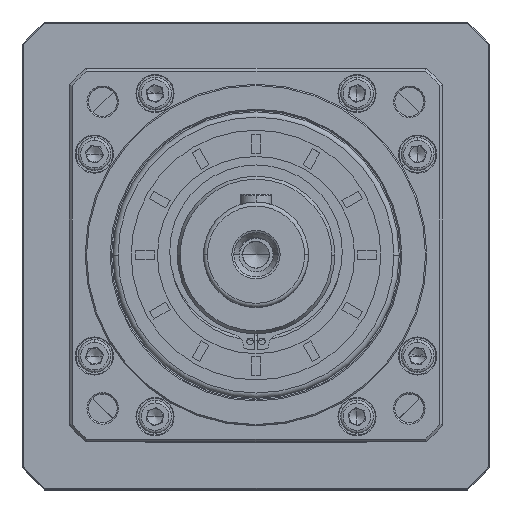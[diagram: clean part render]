
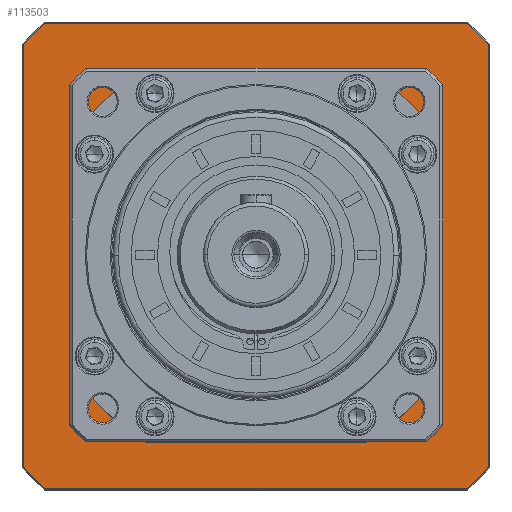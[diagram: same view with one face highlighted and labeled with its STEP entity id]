
A CAD part, top view. The second image highlights one B-rep face of the part: STEP entity #113503.
In plain terms, the highlighted planar face has unit normal (0, 0, 1).
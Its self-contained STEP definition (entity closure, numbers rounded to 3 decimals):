
#1501 = VERTEX_POINT ( 'NONE', #25949 ) ;
#1652 = AXIS2_PLACEMENT_3D ( 'NONE', #77176, #114457, #21583 ) ;
#1670 = CARTESIAN_POINT ( 'NONE',  ( 216.194, 211.094, 29.727 ) ) ;
#2517 = VERTEX_POINT ( 'NONE', #1670 ) ;
#2795 = ORIENTED_EDGE ( 'NONE', *, *, #59771, .F. ) ;
#3359 = DIRECTION ( 'NONE',  ( 1., 0., 0. ) ) ;
#3837 = CARTESIAN_POINT ( 'NONE',  ( 206.895, 193.094, 29.727 ) ) ;
#3999 = VECTOR ( 'NONE', #69097, 1000. ) ;
#4673 = DIRECTION ( 'NONE',  ( -1., 0., 0. ) ) ;
#4831 = EDGE_CURVE ( 'NONE', #37828, #10529, #23725, .T. ) ;
#6135 = VERTEX_POINT ( 'NONE', #23938 ) ;
#6310 = VERTEX_POINT ( 'NONE', #36260 ) ;
#8067 = EDGE_CURVE ( 'NONE', #40323, #8838, #23426, .T. ) ;
#8838 = VERTEX_POINT ( 'NONE', #14684 ) ;
#9535 = DIRECTION ( 'NONE',  ( 0., -1., 0. ) ) ;
#9543 = DIRECTION ( 'NONE',  ( 0., 1., 0. ) ) ;
#9627 = ORIENTED_EDGE ( 'NONE', *, *, #71017, .F. ) ;
#9759 = ORIENTED_EDGE ( 'NONE', *, *, #62210, .F. ) ;
#10459 = VECTOR ( 'NONE', #58840, 1000. ) ;
#10529 = VERTEX_POINT ( 'NONE', #76565 ) ;
#11060 = VECTOR ( 'NONE', #46387, 1000. ) ;
#12663 = CARTESIAN_POINT ( 'NONE',  ( 224.395, 202.893, 29.727 ) ) ;
#12743 = ORIENTED_EDGE ( 'NONE', *, *, #4831, .F. ) ;
#13553 = PLANE ( 'NONE',  #78237 ) ;
#14419 = CIRCLE ( 'NONE', #39359, 119.5 ) ;
#14684 = CARTESIAN_POINT ( 'NONE',  ( 47.395, 202.893, 29.727 ) ) ;
#14805 = CIRCLE ( 'NONE', #50061, 82. ) ;
#15187 = LINE ( 'NONE', #66024, #104827 ) ;
#16651 = EDGE_CURVE ( 'NONE', #82316, #35423, #39772, .T. ) ;
#19289 = FACE_OUTER_BOUND ( 'NONE', #92420, .T. ) ;
#19331 = CIRCLE ( 'NONE', #61034, 82. ) ;
#20512 = CIRCLE ( 'NONE', #75754, 119.5 ) ;
#20875 = CARTESIAN_POINT ( 'NONE',  ( 135.895, 211.094, 29.727 ) ) ;
#21583 = DIRECTION ( 'NONE',  ( -1., 0., 0. ) ) ;
#22989 = DIRECTION ( 'NONE',  ( 0., -1., 0. ) ) ;
#23426 = LINE ( 'NONE', #68064, #70592 ) ;
#23725 = LINE ( 'NONE', #31992, #10459 ) ;
#23796 = ORIENTED_EDGE ( 'NONE', *, *, #78649, .F. ) ;
#23938 = CARTESIAN_POINT ( 'NONE',  ( 216.194, 34.094, 29.727 ) ) ;
#24107 = EDGE_LOOP ( 'NONE', ( #23796, #104310, #32595, #9759, #77113, #101601, #2795, #38491 ) ) ;
#25282 = DIRECTION ( 'NONE',  ( 1., 0., 0. ) ) ;
#25308 = CIRCLE ( 'NONE', #66699, 82. ) ;
#25949 = CARTESIAN_POINT ( 'NONE',  ( 206.395, 164.471, 29.727 ) ) ;
#26457 = VERTEX_POINT ( 'NONE', #110336 ) ;
#27750 = CARTESIAN_POINT ( 'NONE',  ( 177.773, 52.094, 29.727 ) ) ;
#27990 = CARTESIAN_POINT ( 'NONE',  ( 65.395, 80.716, 29.727 ) ) ;
#28920 = DIRECTION ( 'NONE',  ( 0., 0., 1. ) ) ;
#31992 = CARTESIAN_POINT ( 'NONE',  ( 224.395, 122.594, 29.727 ) ) ;
#32595 = ORIENTED_EDGE ( 'NONE', *, *, #78386, .F. ) ;
#35094 = ORIENTED_EDGE ( 'NONE', *, *, #89249, .F. ) ;
#35423 = VERTEX_POINT ( 'NONE', #69775 ) ;
#36260 = CARTESIAN_POINT ( 'NONE',  ( 55.595, 34.094, 29.727 ) ) ;
#37828 = VERTEX_POINT ( 'NONE', #12663 ) ;
#38491 = ORIENTED_EDGE ( 'NONE', *, *, #98124, .F. ) ;
#39359 = AXIS2_PLACEMENT_3D ( 'NONE', #103863, #93238, #112902 ) ;
#39772 = CIRCLE ( 'NONE', #94920, 82. ) ;
#40323 = VERTEX_POINT ( 'NONE', #107764 ) ;
#40814 = DIRECTION ( 'NONE',  ( -1., 0., 0. ) ) ;
#41627 = DIRECTION ( 'NONE',  ( 0., 0., -1. ) ) ;
#42696 = VECTOR ( 'NONE', #78413, 1000. ) ;
#46387 = DIRECTION ( 'NONE',  ( 0., -1., 0. ) ) ;
#47575 = EDGE_CURVE ( 'NONE', #91669, #2517, #96687, .T. ) ;
#48363 = VERTEX_POINT ( 'NONE', #62695 ) ;
#48665 = CARTESIAN_POINT ( 'NONE',  ( 135.895, 122.594, 29.727 ) ) ;
#50061 = AXIS2_PLACEMENT_3D ( 'NONE', #56585, #28920, #9535 ) ;
#54429 = ORIENTED_EDGE ( 'NONE', *, *, #47575, .F. ) ;
#54448 = CARTESIAN_POINT ( 'NONE',  ( 135.895, 34.094, 29.727 ) ) ;
#56585 = CARTESIAN_POINT ( 'NONE',  ( 135.895, 122.594, 29.727 ) ) ;
#58000 = EDGE_CURVE ( 'NONE', #74779, #1501, #15187, .T. ) ;
#58199 = VERTEX_POINT ( 'NONE', #117546 ) ;
#58840 = DIRECTION ( 'NONE',  ( 0., -1., 0. ) ) ;
#59771 = EDGE_CURVE ( 'NONE', #58199, #26457, #25308, .T. ) ;
#59809 = DIRECTION ( 'NONE',  ( 0., 1., 0. ) ) ;
#61034 = AXIS2_PLACEMENT_3D ( 'NONE', #81607, #97606, #25282 ) ;
#62210 = EDGE_CURVE ( 'NONE', #35423, #83426, #120584, .T. ) ;
#62695 = CARTESIAN_POINT ( 'NONE',  ( 177.773, 193.094, 29.727 ) ) ;
#63003 = EDGE_CURVE ( 'NONE', #8838, #91669, #110055, .T. ) ;
#65369 = LINE ( 'NONE', #54448, #72672 ) ;
#66024 = CARTESIAN_POINT ( 'NONE',  ( 206.395, 51.594, 29.727 ) ) ;
#66699 = AXIS2_PLACEMENT_3D ( 'NONE', #103561, #102336, #74909 ) ;
#68064 = CARTESIAN_POINT ( 'NONE',  ( 47.395, 122.594, 29.727 ) ) ;
#69097 = DIRECTION ( 'NONE',  ( 1., 0., 0. ) ) ;
#69775 = CARTESIAN_POINT ( 'NONE',  ( 94.017, 52.094, 29.727 ) ) ;
#70135 = CARTESIAN_POINT ( 'NONE',  ( 206.895, 52.094, 29.727 ) ) ;
#70344 = DIRECTION ( 'NONE',  ( 0., 0., 1. ) ) ;
#70592 = VECTOR ( 'NONE', #59809, 1000. ) ;
#71017 = EDGE_CURVE ( 'NONE', #10529, #6135, #96731, .T. ) ;
#72672 = VECTOR ( 'NONE', #82748, 1000. ) ;
#74779 = VERTEX_POINT ( 'NONE', #110235 ) ;
#74909 = DIRECTION ( 'NONE',  ( 1., 0., 0. ) ) ;
#75754 = AXIS2_PLACEMENT_3D ( 'NONE', #48665, #86374, #85976 ) ;
#76442 = CARTESIAN_POINT ( 'NONE',  ( 55.595, 211.094, 29.727 ) ) ;
#76565 = CARTESIAN_POINT ( 'NONE',  ( 224.395, 42.294, 29.727 ) ) ;
#76652 = VECTOR ( 'NONE', #3359, 1000. ) ;
#77113 = ORIENTED_EDGE ( 'NONE', *, *, #16651, .F. ) ;
#77176 = CARTESIAN_POINT ( 'NONE',  ( 135.895, 122.594, 29.727 ) ) ;
#78237 = AXIS2_PLACEMENT_3D ( 'NONE', #88823, #41627, #40814 ) ;
#78386 = EDGE_CURVE ( 'NONE', #83426, #74779, #19331, .T. ) ;
#78413 = DIRECTION ( 'NONE',  ( -1., 0., 0. ) ) ;
#78649 = EDGE_CURVE ( 'NONE', #1501, #48363, #14805, .T. ) ;
#79361 = CARTESIAN_POINT ( 'NONE',  ( 135.895, 122.594, 29.727 ) ) ;
#81607 = CARTESIAN_POINT ( 'NONE',  ( 135.895, 122.594, 29.727 ) ) ;
#82316 = VERTEX_POINT ( 'NONE', #27990 ) ;
#82748 = DIRECTION ( 'NONE',  ( -1., 0., 0. ) ) ;
#83426 = VERTEX_POINT ( 'NONE', #27750 ) ;
#85495 = ORIENTED_EDGE ( 'NONE', *, *, #106192, .F. ) ;
#85976 = DIRECTION ( 'NONE',  ( -1., 0., 0. ) ) ;
#86374 = DIRECTION ( 'NONE',  ( 0., 0., -1. ) ) ;
#88413 = FACE_BOUND ( 'NONE', #24107, .T. ) ;
#88823 = CARTESIAN_POINT ( 'NONE',  ( 135.895, 122.594, 29.727 ) ) ;
#89249 = EDGE_CURVE ( 'NONE', #6310, #40323, #20512, .T. ) ;
#91119 = CARTESIAN_POINT ( 'NONE',  ( 65.395, 51.594, 29.727 ) ) ;
#91669 = VERTEX_POINT ( 'NONE', #76442 ) ;
#92420 = EDGE_LOOP ( 'NONE', ( #120088, #9627, #12743, #85495, #54429, #94442, #102596, #35094 ) ) ;
#93238 = DIRECTION ( 'NONE',  ( 0., 0., -1. ) ) ;
#94442 = ORIENTED_EDGE ( 'NONE', *, *, #63003, .F. ) ;
#94920 = AXIS2_PLACEMENT_3D ( 'NONE', #79361, #70344, #22989 ) ;
#96687 = LINE ( 'NONE', #20875, #3999 ) ;
#96731 = CIRCLE ( 'NONE', #1652, 119.5 ) ;
#97606 = DIRECTION ( 'NONE',  ( 0., 0., 1. ) ) ;
#98124 = EDGE_CURVE ( 'NONE', #48363, #58199, #99948, .T. ) ;
#98474 = CARTESIAN_POINT ( 'NONE',  ( 135.895, 122.594, 29.727 ) ) ;
#99948 = LINE ( 'NONE', #3837, #42696 ) ;
#101601 = ORIENTED_EDGE ( 'NONE', *, *, #114206, .F. ) ;
#102258 = LINE ( 'NONE', #91119, #11060 ) ;
#102336 = DIRECTION ( 'NONE',  ( 0., 0., 1. ) ) ;
#102596 = ORIENTED_EDGE ( 'NONE', *, *, #8067, .F. ) ;
#103561 = CARTESIAN_POINT ( 'NONE',  ( 135.895, 122.594, 29.727 ) ) ;
#103863 = CARTESIAN_POINT ( 'NONE',  ( 135.895, 122.594, 29.727 ) ) ;
#104310 = ORIENTED_EDGE ( 'NONE', *, *, #58000, .F. ) ;
#104703 = AXIS2_PLACEMENT_3D ( 'NONE', #98474, #107907, #4673 ) ;
#104827 = VECTOR ( 'NONE', #9543, 1000. ) ;
#106192 = EDGE_CURVE ( 'NONE', #2517, #37828, #14419, .T. ) ;
#107764 = CARTESIAN_POINT ( 'NONE',  ( 47.395, 42.294, 29.727 ) ) ;
#107907 = DIRECTION ( 'NONE',  ( 0., 0., -1. ) ) ;
#110055 = CIRCLE ( 'NONE', #104703, 119.5 ) ;
#110235 = CARTESIAN_POINT ( 'NONE',  ( 206.395, 80.716, 29.727 ) ) ;
#110336 = CARTESIAN_POINT ( 'NONE',  ( 65.395, 164.471, 29.727 ) ) ;
#112902 = DIRECTION ( 'NONE',  ( -1., 0., 0. ) ) ;
#113503 = ADVANCED_FACE ( 'NONE', ( #19289, #88413 ), #13553, .F. ) ;
#114206 = EDGE_CURVE ( 'NONE', #26457, #82316, #102258, .T. ) ;
#114457 = DIRECTION ( 'NONE',  ( 0., 0., -1. ) ) ;
#114737 = EDGE_CURVE ( 'NONE', #6135, #6310, #65369, .T. ) ;
#117546 = CARTESIAN_POINT ( 'NONE',  ( 94.017, 193.094, 29.727 ) ) ;
#120088 = ORIENTED_EDGE ( 'NONE', *, *, #114737, .F. ) ;
#120584 = LINE ( 'NONE', #70135, #76652 ) ;
